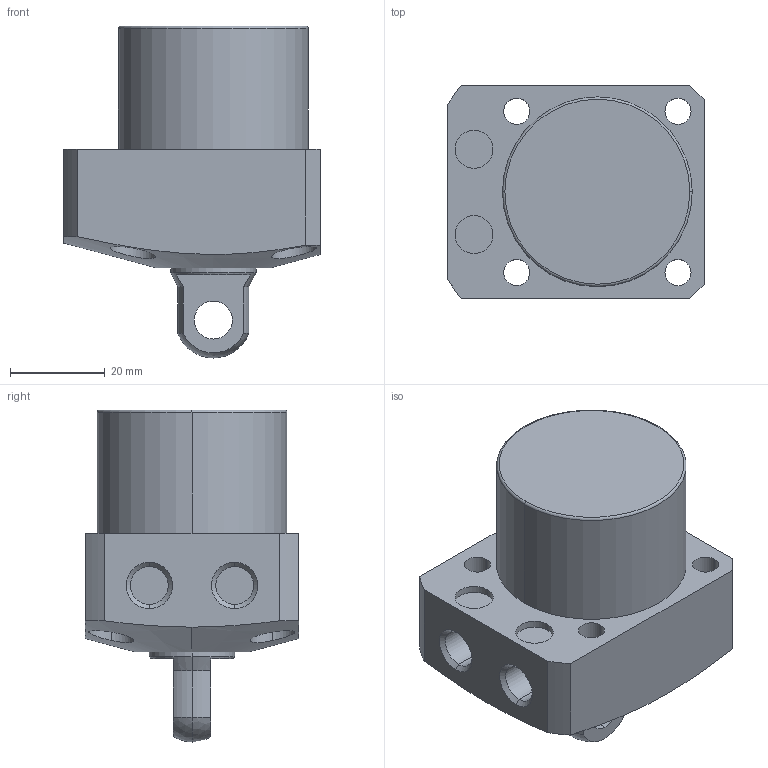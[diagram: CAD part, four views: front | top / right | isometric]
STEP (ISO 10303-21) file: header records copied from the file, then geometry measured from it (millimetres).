
FILE_DESCRIPTION (( 'STEP AP203' ), '1' );
FILE_NAME ('CLL-040CP-015.STEP', '2019-12-20T02:10:44', ( '' ), ( '' ), 'SwSTEP 2.0', 'SolidWorks 2015', '' );
FILE_SCHEMA (( 'CONFIG_CONTROL_DESIGN' ));
Length unit declared in the file: millimetre
Products named in the file (1): CLL-040CP-015
Bounding box: 54 x 45 x 70 mm (x, y, z)
Volume: 84716.1 mm3; surface area: 15196.2 mm2
Topology: 1 solids, 1 shells, 68 faces, 159 edges, 103 vertices
Faces by surface type: cylinder 35, plane 21, cone 8, sphere 2, torus 2
Entity records: 2379 total; most frequent: CARTESIAN_POINT 682, DIRECTION 357, ORIENTED_EDGE 318, EDGE_CURVE 159, AXIS2_PLACEMENT_3D 149, VERTEX_POINT 103, EDGE_LOOP 88, CIRCLE 80
